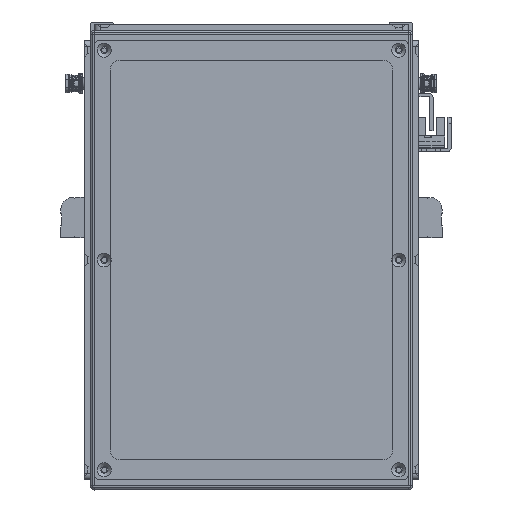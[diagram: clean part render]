
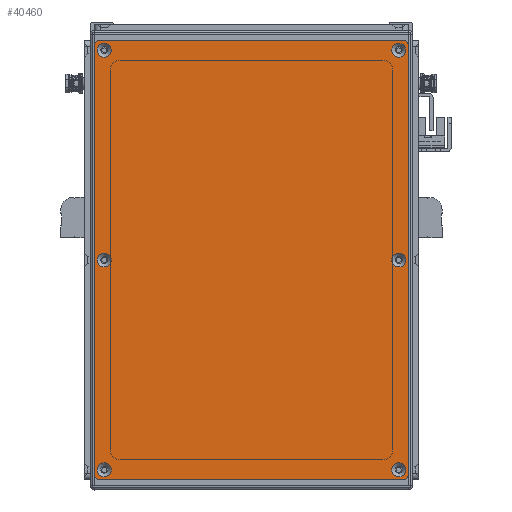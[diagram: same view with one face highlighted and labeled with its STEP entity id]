
A CAD part, front view. The second image highlights one B-rep face of the part: STEP entity #40460.
In plain terms, the highlighted planar face has unit normal (0, -1, 0).
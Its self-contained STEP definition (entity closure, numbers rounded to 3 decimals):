
#4740=FACE_BOUND('',#10961,.T.);
#4741=FACE_BOUND('',#10962,.T.);
#4742=FACE_BOUND('',#10963,.T.);
#4743=FACE_BOUND('',#10964,.T.);
#4744=FACE_BOUND('',#10965,.T.);
#4745=FACE_BOUND('',#10966,.T.);
#5653=PLANE('',#45085);
#8558=FACE_OUTER_BOUND('',#10960,.T.);
#10960=EDGE_LOOP('',(#37498,#37499,#37500,#37501,#37502,#37503,#37504,#37505));
#10961=EDGE_LOOP('',(#37506));
#10962=EDGE_LOOP('',(#37507));
#10963=EDGE_LOOP('',(#37508));
#10964=EDGE_LOOP('',(#37509));
#10965=EDGE_LOOP('',(#37510));
#10966=EDGE_LOOP('',(#37511));
#13909=LINE('',#71061,#16835);
#13910=LINE('',#71065,#16836);
#13911=LINE('',#71069,#16837);
#13912=LINE('',#71072,#16838);
#16835=VECTOR('',#56056,10.);
#16836=VECTOR('',#56059,10.);
#16837=VECTOR('',#56062,10.);
#16838=VECTOR('',#56065,10.);
#18916=CIRCLE('',#45053,3.45);
#18919=CIRCLE('',#45058,3.45);
#18922=CIRCLE('',#45063,3.45);
#18925=CIRCLE('',#45068,3.45);
#18928=CIRCLE('',#45073,3.45);
#18931=CIRCLE('',#45078,3.45);
#18934=CIRCLE('',#45083,3.);
#18936=CIRCLE('',#45086,3.);
#18937=CIRCLE('',#45087,3.);
#18938=CIRCLE('',#45088,3.);
#22327=VERTEX_POINT('',#70991);
#22330=VERTEX_POINT('',#71001);
#22333=VERTEX_POINT('',#71011);
#22336=VERTEX_POINT('',#71021);
#22339=VERTEX_POINT('',#71031);
#22342=VERTEX_POINT('',#71041);
#22345=VERTEX_POINT('',#71051);
#22346=VERTEX_POINT('',#71052);
#22349=VERTEX_POINT('',#71060);
#22350=VERTEX_POINT('',#71062);
#22351=VERTEX_POINT('',#71064);
#22352=VERTEX_POINT('',#71066);
#22353=VERTEX_POINT('',#71068);
#22354=VERTEX_POINT('',#71070);
#27414=EDGE_CURVE('',#22327,#22327,#18916,.T.);
#27419=EDGE_CURVE('',#22330,#22330,#18919,.T.);
#27424=EDGE_CURVE('',#22333,#22333,#18922,.T.);
#27429=EDGE_CURVE('',#22336,#22336,#18925,.T.);
#27434=EDGE_CURVE('',#22339,#22339,#18928,.T.);
#27439=EDGE_CURVE('',#22342,#22342,#18931,.T.);
#27444=EDGE_CURVE('',#22345,#22346,#18934,.T.);
#27448=EDGE_CURVE('',#22345,#22349,#13909,.T.);
#27449=EDGE_CURVE('',#22350,#22349,#18936,.T.);
#27450=EDGE_CURVE('',#22350,#22351,#13910,.T.);
#27451=EDGE_CURVE('',#22352,#22351,#18937,.T.);
#27452=EDGE_CURVE('',#22352,#22353,#13911,.T.);
#27453=EDGE_CURVE('',#22354,#22353,#18938,.T.);
#27454=EDGE_CURVE('',#22354,#22346,#13912,.T.);
#37498=ORIENTED_EDGE('',*,*,#27444,.F.);
#37499=ORIENTED_EDGE('',*,*,#27448,.T.);
#37500=ORIENTED_EDGE('',*,*,#27449,.F.);
#37501=ORIENTED_EDGE('',*,*,#27450,.T.);
#37502=ORIENTED_EDGE('',*,*,#27451,.F.);
#37503=ORIENTED_EDGE('',*,*,#27452,.T.);
#37504=ORIENTED_EDGE('',*,*,#27453,.F.);
#37505=ORIENTED_EDGE('',*,*,#27454,.T.);
#37506=ORIENTED_EDGE('',*,*,#27414,.T.);
#37507=ORIENTED_EDGE('',*,*,#27419,.T.);
#37508=ORIENTED_EDGE('',*,*,#27424,.T.);
#37509=ORIENTED_EDGE('',*,*,#27429,.T.);
#37510=ORIENTED_EDGE('',*,*,#27434,.T.);
#37511=ORIENTED_EDGE('',*,*,#27439,.T.);
#40460=ADVANCED_FACE('',(#8558,#4740,#4741,#4742,#4743,#4744,#4745),#5653,
 .T.);
#45053=AXIS2_PLACEMENT_3D('',#70992,#55976,#55977);
#45058=AXIS2_PLACEMENT_3D('',#71002,#55988,#55989);
#45063=AXIS2_PLACEMENT_3D('',#71012,#56000,#56001);
#45068=AXIS2_PLACEMENT_3D('',#71022,#56012,#56013);
#45073=AXIS2_PLACEMENT_3D('',#71032,#56024,#56025);
#45078=AXIS2_PLACEMENT_3D('',#71042,#56036,#56037);
#45083=AXIS2_PLACEMENT_3D('',#71053,#56048,#56049);
#45085=AXIS2_PLACEMENT_3D('',#71059,#56054,#56055);
#45086=AXIS2_PLACEMENT_3D('',#71063,#56057,#56058);
#45087=AXIS2_PLACEMENT_3D('',#71067,#56060,#56061);
#45088=AXIS2_PLACEMENT_3D('',#71071,#56063,#56064);
#55976=DIRECTION('center_axis',(0.,1.,0.));
#55977=DIRECTION('ref_axis',(1.,0.,0.));
#55988=DIRECTION('center_axis',(0.,1.,0.));
#55989=DIRECTION('ref_axis',(1.,0.,0.));
#56000=DIRECTION('center_axis',(0.,1.,0.));
#56001=DIRECTION('ref_axis',(1.,0.,0.));
#56012=DIRECTION('center_axis',(0.,1.,0.));
#56013=DIRECTION('ref_axis',(1.,0.,0.));
#56024=DIRECTION('center_axis',(0.,1.,0.));
#56025=DIRECTION('ref_axis',(1.,0.,0.));
#56036=DIRECTION('center_axis',(0.,1.,0.));
#56037=DIRECTION('ref_axis',(1.,0.,0.));
#56048=DIRECTION('center_axis',(0.,1.,0.));
#56049=DIRECTION('ref_axis',(-0.707,0.,0.707));
#56054=DIRECTION('center_axis',(0.,-1.,0.));
#56055=DIRECTION('ref_axis',(0.,0.,-1.));
#56056=DIRECTION('',(0.,0.,-1.));
#56057=DIRECTION('center_axis',(0.,1.,0.));
#56058=DIRECTION('ref_axis',(-0.707,0.,-0.707));
#56059=DIRECTION('',(1.,0.,0.));
#56060=DIRECTION('center_axis',(0.,1.,0.));
#56061=DIRECTION('ref_axis',(0.707,0.,-0.707));
#56062=DIRECTION('',(0.,0.,1.));
#56063=DIRECTION('center_axis',(0.,1.,0.));
#56064=DIRECTION('ref_axis',(0.707,0.,0.707));
#56065=DIRECTION('',(-1.,0.,0.));
#70991=CARTESIAN_POINT('',(100.55,-1.5,73.));
#70992=CARTESIAN_POINT('Origin',(104.,-1.5,73.));
#71001=CARTESIAN_POINT('',(-107.45,-1.5,-73.));
#71002=CARTESIAN_POINT('Origin',(-104.,-1.5,-73.));
#71011=CARTESIAN_POINT('',(-3.45,-1.5,73.));
#71012=CARTESIAN_POINT('Origin',(0.,-1.5,73.));
#71021=CARTESIAN_POINT('',(-3.45,-1.5,-73.));
#71022=CARTESIAN_POINT('Origin',(0.,-1.5,-73.));
#71031=CARTESIAN_POINT('',(-107.45,-1.5,73.));
#71032=CARTESIAN_POINT('Origin',(-104.,-1.5,73.));
#71041=CARTESIAN_POINT('',(100.55,-1.5,-73.));
#71042=CARTESIAN_POINT('Origin',(104.,-1.5,-73.));
#71051=CARTESIAN_POINT('',(-109.,-1.5,75.));
#71052=CARTESIAN_POINT('',(-106.,-1.5,78.));
#71053=CARTESIAN_POINT('Origin',(-106.,-1.5,75.));
#71059=CARTESIAN_POINT('Origin',(0.,-1.5,0.));
#71060=CARTESIAN_POINT('',(-109.,-1.5,-75.));
#71061=CARTESIAN_POINT('',(-109.,-1.5,78.));
#71062=CARTESIAN_POINT('',(-106.,-1.5,-78.));
#71063=CARTESIAN_POINT('Origin',(-106.,-1.5,-75.));
#71064=CARTESIAN_POINT('',(106.,-1.5,-78.));
#71065=CARTESIAN_POINT('',(-109.,-1.5,-78.));
#71066=CARTESIAN_POINT('',(109.,-1.5,-75.));
#71067=CARTESIAN_POINT('Origin',(106.,-1.5,-75.));
#71068=CARTESIAN_POINT('',(109.,-1.5,75.));
#71069=CARTESIAN_POINT('',(109.,-1.5,-78.));
#71070=CARTESIAN_POINT('',(106.,-1.5,78.));
#71071=CARTESIAN_POINT('Origin',(106.,-1.5,75.));
#71072=CARTESIAN_POINT('',(109.,-1.5,78.));
